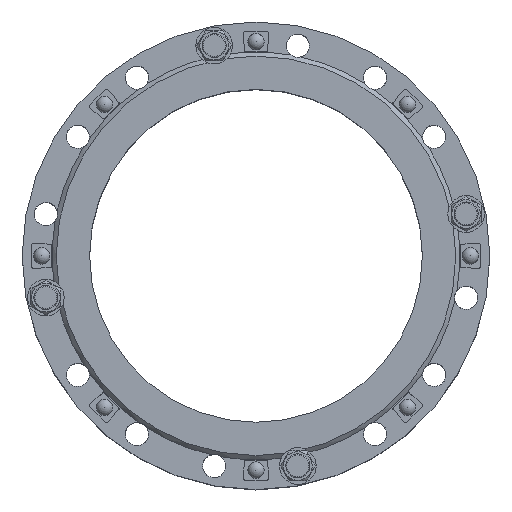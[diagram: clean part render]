
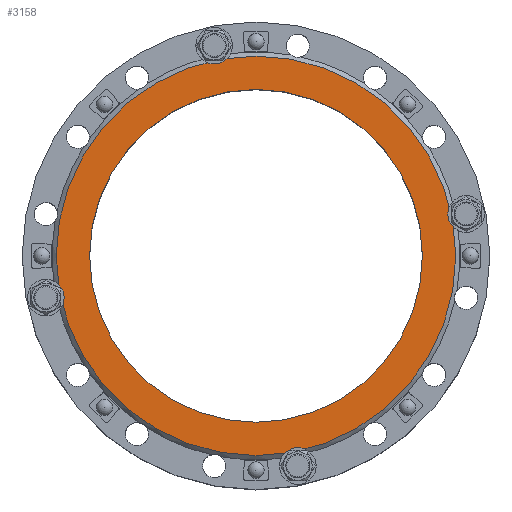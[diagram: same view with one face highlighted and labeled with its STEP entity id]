
A CAD part, top view. The second image highlights one B-rep face of the part: STEP entity #3158.
In plain terms, the highlighted planar face has unit normal (0, 0, 1) as drawn and (0, 0, -1) by its records, which use the part's own axes.
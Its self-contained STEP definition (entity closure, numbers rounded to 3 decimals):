
#3158=ADVANCED_FACE('',(#4966,#4968),#4970,.F.);
#4966=FACE_BOUND('',#4967,.T.);
#4967=EDGE_LOOP('',(#7317));
#4968=FACE_BOUND('',#4969,.T.);
#4969=EDGE_LOOP('',(#7318));
#4970=PLANE('',#4971);
#4971=AXIS2_PLACEMENT_3D('',#4972,#4973,#4974);
#4972=CARTESIAN_POINT('',(0.,0.,0.));
#4973=DIRECTION('',(0.,0.,1.));
#4974=DIRECTION('',(-1.,0.,0.));
#7317=ORIENTED_EDGE('',*,*,#8235,.F.);
#7318=ORIENTED_EDGE('',*,*,#8365,.T.);
#8235=EDGE_CURVE('',#9421,#9421,#9422,.T.);
#8365=EDGE_CURVE('',#9617,#9617,#9618,.T.);
#9421=VERTEX_POINT('',#17028);
#9422=CIRCLE('',#17029,240.);
#9617=VERTEX_POINT('',#17518);
#9618=CIRCLE('',#17519,200.);
#17028=CARTESIAN_POINT('',(-240.,0.,0.));
#17029=AXIS2_PLACEMENT_3D('',#17030,#17031,#17032);
#17030=CARTESIAN_POINT('',(0.,0.,0.));
#17031=DIRECTION('',(0.,0.,1.));
#17032=DIRECTION('',(-1.,0.,0.));
#17518=CARTESIAN_POINT('',(-200.,0.,0.));
#17519=AXIS2_PLACEMENT_3D('',#17520,#17521,#17522);
#17520=CARTESIAN_POINT('',(0.,0.,0.));
#17521=DIRECTION('',(0.,0.,1.));
#17522=DIRECTION('',(-1.,0.,0.));
